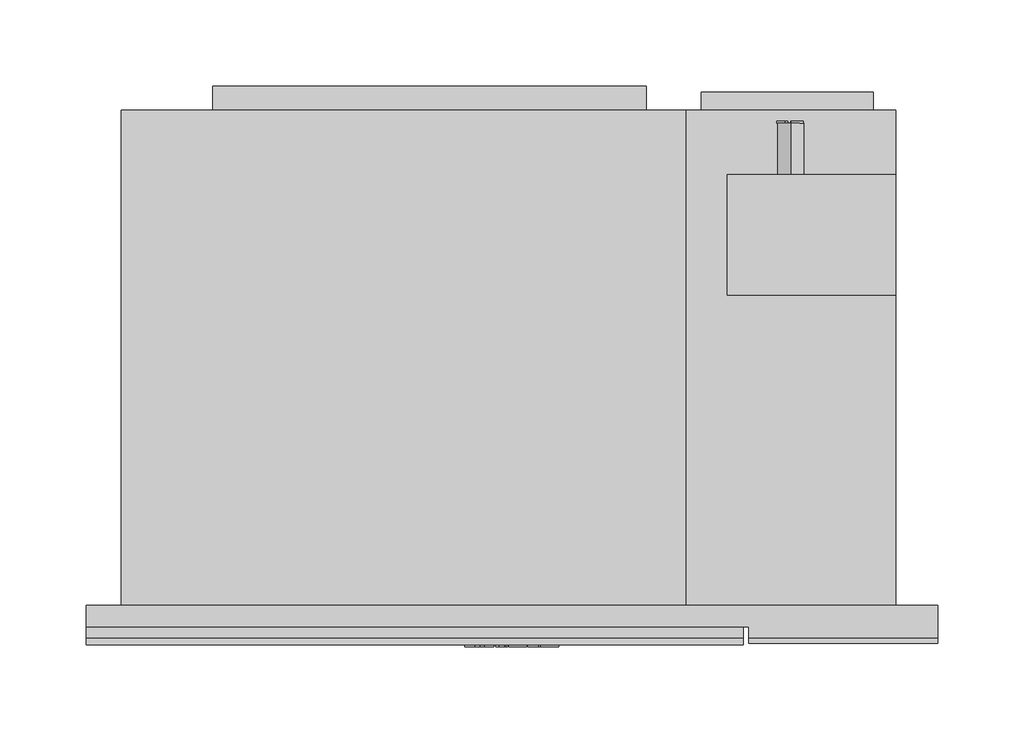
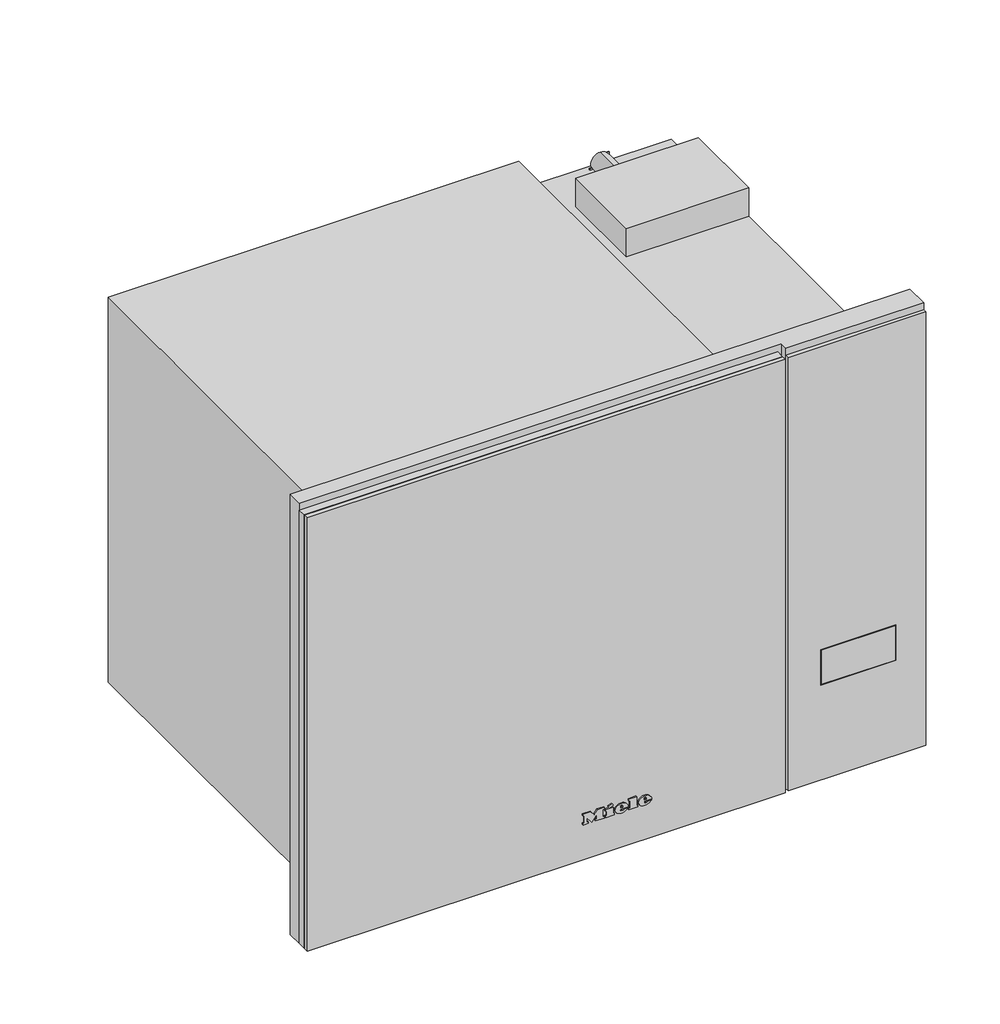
# Not in any storey: 1 proxy.
"""IFC4 building model written with IfcOpenShell, lengths in millimetres."""

import ifcopenshell
import ifcopenshell.guid

model = None  # the IFC model being written
_history = None  # IfcOwnerHistory: only IFC2X3 demands one
_inside = {}  # id of a spatial element -> (the spatial element, [elements in it])
_under = {}  # id of a project, library or spatial element -> (it, [spatial elements below it])
_declared = {}  # id of a project -> (the project, [libraries it declares])
_typed = {}  # id of a type object -> (the type object, [elements of that type])
_made_of = {}  # id of a material, layer set ... -> (it, [elements and type objects made of it])


def new_model(schema):
    """Start an empty IFC model of exactly this schema.

    Asked for "IFC4X3", IfcOpenShell would pick the latest addendum, in which some entities
    have other attributes; the version numbers below select the first issue.
    IFC2X3 requires an IfcOwnerHistory on every rooted entity: one is made here for all.
    """
    global model, _history
    if schema == "IFC4X3":
        model = ifcopenshell.file(schema_version=(4, 3, 0, 0))
    else:
        model = ifcopenshell.file(schema=schema)
    _inside.clear()
    _under.clear()
    _declared.clear()
    _typed.clear()
    _made_of.clear()
    _history = None
    if model.schema == "IFC2X3":
        org = make("IfcOrganization", Name="unknown")
        user = make(
            "IfcPersonAndOrganization",
            ThePerson=make("IfcPerson", FamilyName="unknown"),
            TheOrganization=org,
        )
        app = make(
            "IfcApplication",
            ApplicationDeveloper=org,
            Version="unknown",
            ApplicationFullName="unknown",
            ApplicationIdentifier="unknown",
        )
        _history = make(
            "IfcOwnerHistory",
            OwningUser=user,
            OwningApplication=app,
            ChangeAction="ADDED",
            CreationDate=0,
        )
    return model


def make(cls, **values):
    """One entity of the class cls with the attributes given. An attribute that is None is left unset."""
    return model.create_entity(
        cls, **{name: value for name, value in values.items() if value is not None}
    )


def rooted(cls, **values):
    """An entity with a GlobalId (a new one), such as an element, a storey or a relation."""
    return make(cls, GlobalId=ifcopenshell.guid.new(), OwnerHistory=_history, **values)


def si_unit(unit_type, name, prefix=None):
    """IfcSIUnit, for example si_unit("LENGTHUNIT", "METRE", prefix="MILLI")."""
    return make("IfcSIUnit", UnitType=unit_type, Prefix=prefix, Name=name)


def assignment(units):
    """IfcUnitAssignment: the units of a project."""
    return None if units is None else make("IfcUnitAssignment", Units=units)


def point(xyz):
    """IfcCartesianPoint."""
    return None if xyz is None else make("IfcCartesianPoint", Coordinates=xyz)


def direction(xyz):
    """IfcDirection."""
    return None if xyz is None else make("IfcDirection", DirectionRatios=xyz)


def frame(location, z_axis=None, x_axis=None):
    """IfcAxis2Placement3D, a coordinate frame: its origin and axes. An axis left out is left unset."""
    return make(
        "IfcAxis2Placement3D",
        Location=point(location),
        Axis=direction(z_axis),
        RefDirection=direction(x_axis),
    )


def frame_2d(location, x_axis=None):
    """IfcAxis2Placement2D, a coordinate frame in the plane: its origin and x axis."""
    return make(
        "IfcAxis2Placement2D", Location=point(location), RefDirection=direction(x_axis)
    )


def origin():
    """The frame at (0, 0, 0) with its axes left unset."""
    return frame((0.0, 0.0, 0.0))


def origin_with_axes():
    """The frame at (0, 0, 0) with the z axis (0, 0, 1) and the x axis (1, 0, 0) written out."""
    return frame((0.0, 0.0, 0.0), z_axis=(0.0, 0.0, 1.0), x_axis=(1.0, 0.0, 0.0))


def place(relative_to, where):
    """IfcLocalPlacement: puts the frame where relative to a parent placement (None: the world)."""
    return make(
        "IfcLocalPlacement", PlacementRelTo=relative_to, RelativePlacement=where
    )


def context(
    kind, dimensions, precision=None, world=None, true_north=None, identifier=None
):
    """IfcGeometricRepresentationContext, for example the 3D "Model" context."""
    return make(
        "IfcGeometricRepresentationContext",
        ContextIdentifier=identifier,
        ContextType=kind,
        CoordinateSpaceDimension=dimensions,
        Precision=precision,
        WorldCoordinateSystem=world,
        TrueNorth=true_north,
    )


def project(units=None, contexts=None):
    """IfcProject with its units and contexts."""
    return rooted(
        "IfcProject",
        Name="project",
        RepresentationContexts=contexts,
        UnitsInContext=assignment(units),
    )


def spatial(cls, under=None, at=None, **own):
    """A site, building, storey or space (cls), placed at a placement, below another one or the project."""
    s = rooted(cls, ObjectPlacement=at, **own)
    if under is not None:
        _under.setdefault(under.id(), (under, []))[1].append(s)
    return s


def polyline(points):
    """IfcPolyline through the points."""
    return make("IfcPolyline", Points=[point(p) for p in points])


def circle_curve(where, radius):
    """IfcCircle in the frame where."""
    return make("IfcCircle", Position=where, Radius=radius)


def ellipse_curve(where, semi_axis1, semi_axis2):
    """IfcEllipse in the frame where."""
    return make(
        "IfcEllipse", Position=where, SemiAxis1=semi_axis1, SemiAxis2=semi_axis2
    )


def trimmed(basis, trim1, trim2, sense, master):
    """IfcTrimmedCurve: the piece of a basis curve between two trims."""
    return make(
        "IfcTrimmedCurve",
        BasisCurve=basis,
        Trim1=trim1,
        Trim2=trim2,
        SenseAgreement=sense,
        MasterRepresentation=master,
    )


def segment(curve, same_sense, transition):
    """IfcCompositeCurveSegment."""
    return make(
        "IfcCompositeCurveSegment",
        Transition=transition,
        SameSense=same_sense,
        ParentCurve=curve,
    )


def composite_curve(segments, self_intersect=None):
    """IfcCompositeCurve: segments joined end to end."""
    return make("IfcCompositeCurve", Segments=segments, SelfIntersect=self_intersect)


def outline(outer, holes=None, kind="AREA"):
    """IfcArbitraryClosedProfileDef: a profile drawn as a closed curve; with holes, ...WithVoids."""
    if holes is None:
        return make("IfcArbitraryClosedProfileDef", ProfileType=kind, OuterCurve=outer)
    return make(
        "IfcArbitraryProfileDefWithVoids",
        ProfileType=kind,
        OuterCurve=outer,
        InnerCurves=holes,
    )


def extrude(swept, where, along, depth):
    """IfcExtrudedAreaSolid: the profile swept, set in the frame where, extruded along a direction by depth."""
    return make(
        "IfcExtrudedAreaSolid",
        SweptArea=swept,
        Position=where,
        ExtrudedDirection=direction(along),
        Depth=depth,
    )


def faces_of(points, faces, orient=None, outer=None):
    """IfcFace entities. A face is a list of loops; a loop is a list of indices into points, from 0.

    orient and outer hold one flag for each loop. By default every Orientation is true, the
    first loop of a face is its IfcFaceOuterBound and the others are IfcFaceBound.
    """
    made = []
    for i, loops in enumerate(faces):
        bounds = []
        for j, loop in enumerate(loops):
            is_outer = j == 0 if outer is None else outer[i][j]
            bounds.append(
                make(
                    "IfcFaceOuterBound" if is_outer else "IfcFaceBound",
                    Bound=make("IfcPolyLoop", Polygon=[points[k] for k in loop]),
                    Orientation=True if orient is None else orient[i][j],
                )
            )
        made.append(make("IfcFace", Bounds=bounds))
    return made


def faceted_brep(points, faces, orient=None, outer=None, voids=None):
    """IfcFacetedBrep: a solid bounded by flat faces; with voids (closed shells), ...WithVoids."""
    shared = [point(p) for p in points]
    hull = make("IfcClosedShell", CfsFaces=faces_of(shared, faces, orient, outer))
    if voids is None:
        return make("IfcFacetedBrep", Outer=hull)
    return make(
        "IfcFacetedBrepWithVoids",
        Outer=hull,
        Voids=[
            make(cls, CfsFaces=faces_of(shared, fs, o, b)) for cls, fs, o, b in voids
        ],
    )


def shape(context_of_items, identifier, shape_type, items):
    """IfcShapeRepresentation: the items that make up one representation, for example the "Body"."""
    return make(
        "IfcShapeRepresentation",
        ContextOfItems=context_of_items,
        RepresentationIdentifier=identifier,
        RepresentationType=shape_type,
        Items=items,
    )


def source(mapping_origin, context_of_items, identifier, shape_type, items):
    """IfcRepresentationMap: a shape defined once, which mapped items show again and again."""
    return make(
        "IfcRepresentationMap",
        MappingOrigin=mapping_origin,
        MappedRepresentation=shape(context_of_items, identifier, shape_type, items),
    )


def transform(
    local_origin,
    x_axis=None,
    y_axis=None,
    z_axis=None,
    scale=None,
    scale2=None,
    scale3=None,
    uniform=True,
):
    """IfcCartesianTransformationOperator3D, or its non-uniform kind. x_axis, y_axis, z_axis: its Axis1, 2, 3."""
    if uniform:
        return make(
            "IfcCartesianTransformationOperator3D",
            Axis1=direction(x_axis),
            Axis2=direction(y_axis),
            LocalOrigin=point(local_origin),
            Scale=scale,
            Axis3=direction(z_axis),
        )
    return make(
        "IfcCartesianTransformationOperator3DnonUniform",
        Axis1=direction(x_axis),
        Axis2=direction(y_axis),
        LocalOrigin=point(local_origin),
        Scale=scale,
        Axis3=direction(z_axis),
        Scale2=scale2,
        Scale3=scale3,
    )


def mapped(mapping_source, mapping_target):
    """IfcMappedItem: shows the shape of a source again, moved by a transform."""
    return make(
        "IfcMappedItem", MappingSource=mapping_source, MappingTarget=mapping_target
    )


def made_of(thing, what):
    """Note that an element or type object is made of a material, layer set ...; save() writes the relation."""
    if what is not None:
        _made_of.setdefault(what.id(), (what, []))[1].append(thing)
    return thing


def element(
    cls,
    number,
    at=None,
    inside=None,
    cuts=None,
    type_object=None,
    material=None,
    context=None,
    identifier="Body",
    shape_type=None,
    held_by="IfcProductDefinitionShape",
    body=None,
    shapes=None,
    **own,
):
    """One element of the class cls, such as IfcWall. Its Tag is "e" and its number.

    at: its placement. inside: the storey or other place that contains it. cuts: it is an
    opening in that element (IfcRelVoidsElement). A single representation is given by context,
    identifier, shape_type and body (its items); several are given by shapes. held_by: the class
    of the entity that holds the representations. save() writes the other relations.
    """
    e = rooted(cls, Tag="e%d" % number, ObjectPlacement=at, **own)
    if body is not None:
        shapes = [shape(context, identifier, shape_type, body)]
    if shapes is not None:
        e.Representation = make(held_by, Representations=shapes)
    if inside is not None:
        _inside.setdefault(inside.id(), (inside, []))[1].append(e)
    if cuts is not None:
        rooted(
            "IfcRelVoidsElement", RelatingBuildingElement=cuts, RelatedOpeningElement=e
        )
    if type_object is not None:
        _typed.setdefault(type_object.id(), (type_object, []))[1].append(e)
    return made_of(e, material)


def aggregate(whole, parts):
    """IfcRelAggregates: a whole, such as a stair, and the parts it consists of."""
    return rooted("IfcRelAggregates", RelatingObject=whole, RelatedObjects=parts)


def save(model, path):
    """Write the relations noted so far, then the file.

    IfcRelAggregates (storeys below a building ...), IfcRelContainedInSpatialStructure (elements
    in a storey), IfcRelDefinesByType, IfcRelAssociatesMaterial and IfcRelDeclares: one each for
    every whole, place, type object, material and project.
    """
    for whole, parts in _under.values():
        aggregate(whole, parts)
    for where, things in _inside.values():
        rooted(
            "IfcRelContainedInSpatialStructure",
            RelatedElements=things,
            RelatingStructure=where,
        )
    for kind, things in _typed.values():
        rooted("IfcRelDefinesByType", RelatedObjects=things, RelatingType=kind)
    for what, things in _made_of.values():
        rooted("IfcRelAssociatesMaterial", RelatedObjects=things, RelatingMaterial=what)
    for by, libraries in _declared.values():
        rooted("IfcRelDeclares", RelatingContext=by, RelatedDefinitions=libraries)
    model.write(path)


def plane_surface(at):
    """IfcPlane: the flat surface through the origin of the frame at, square to its z axis."""
    return make("IfcPlane", Position=at)


def cylinder_surface(at, radius):
    """IfcCylindricalSurface: all points at the distance radius from the z axis of the frame at."""
    return make("IfcCylindricalSurface", Position=at, Radius=radius)


def revolved_surface(curve, axis_point, axis_direction):
    """IfcSurfaceOfRevolution: the curve turned about the line through axis_point along axis_direction."""
    return make(
        "IfcSurfaceOfRevolution",
        SweptCurve=make("IfcArbitraryOpenProfileDef", ProfileType="CURVE", Curve=curve),
        AxisPosition=make("IfcAxis1Placement", Location=point(axis_point), Axis=direction(axis_direction)),
    )


def extruded_surface(curve, direction_of_extrusion, depth):
    """IfcSurfaceOfLinearExtrusion: the curve pushed along a direction by depth."""
    return make(
        "IfcSurfaceOfLinearExtrusion",
        SweptCurve=make("IfcArbitraryOpenProfileDef", ProfileType="CURVE", Curve=curve),
        ExtrudedDirection=direction(direction_of_extrusion),
        Depth=depth,
    )


def advanced_brep(points, edges, surfaces, faces):
    """IfcAdvancedBrep: a solid bounded by faces that lie on surfaces and meet in shared edges.

    An edge is (start, end): straight between two places in points (the first is 0);
    or (start, end, curve); or (start, end, curve, False) where it runs against its curve.
    A face is (place in surfaces, loops), or (place, loops, False) where it looks against
    its surface's normal. A loop lists edges by number (the first is 1), with a minus sign
    where the edge is run from its end to its start. The first loop is the outer one.
    """
    corners = [point(p) for p in points]
    vertices = [make("IfcVertexPoint", VertexGeometry=c) for c in corners]
    made = []
    for start, end, *more in edges:
        made.append(
            make(
                "IfcEdgeCurve",
                EdgeStart=vertices[start],
                EdgeEnd=vertices[end],
                EdgeGeometry=more[0] if more else make("IfcPolyline", Points=[corners[start], corners[end]]),
                SameSense=more[1] if len(more) > 1 else True,
            )
        )
    hull = []
    for where, loops, *sense in faces:
        bounds = []
        for j, loop in enumerate(loops):
            ring = [make("IfcOrientedEdge", EdgeElement=made[abs(k) - 1], Orientation=k > 0) for k in loop]
            bounds.append(
                make(
                    "IfcFaceOuterBound" if j == 0 else "IfcFaceBound",
                    Bound=make("IfcEdgeLoop", EdgeList=ring),
                    Orientation=True,
                )
            )
        hull.append(make("IfcAdvancedFace", Bounds=bounds, FaceSurface=surfaces[where], SameSense=sense[0] if sense else True))
    return make("IfcAdvancedBrep", Outer=make("IfcClosedShell", CfsFaces=hull))


def specialty_equipment_d0073193(model_context):
    return source(origin(), model_context, "Body", "SolidModel", [
        advanced_brep(
        [(21.28, -24.0, 16.633), (21.28, -24.0, 17.542), (27.301, -24.0, 17.542), (16.825, -24.0, 17.542), (19.3, -24.0, 14.5), (27.148, -24.0, 16.633), (24.43, -24.0, 16.633), (22.288, -24.0, 15.625), (21.28, -24.0, 18.694), (21.28, -24.0, 19.675), (22.819, -24.0, 19.675), (22.819, -24.0, 18.694), (21.28, -23.0, 16.633), (22.288, -23.0, 15.625), (24.43, -23.0, 16.633), (27.148, -23.0, 16.633), (19.3, -23.0, 14.5), (16.825, -23.0, 17.542), (27.301, -23.0, 17.542), (21.28, -23.0, 17.542), (21.28, -23.0, 18.694), (22.819, -23.0, 18.694), (22.819, -23.0, 19.675), (21.28, -23.0, 19.675)],
        [
            (0, 1),
            (1, 2),
            (2, 3, ellipse_curve(frame((22.063, -24.0, 17.542), z_axis=(0.0, -1.0, 0.0), x_axis=(-1.0, 0.0, 0.0)), 5.238, 4.329)),
            (3, 4, circle_curve(frame((20.3080491, -24.0, 17.848), z_axis=(0.0, -1.0, 0.0), x_axis=(0.0, 0.0, -1.0)), 3.4964649)),
            (4, 5, circle_curve(frame((21.9581428, -24.0, 20.224), z_axis=(0.0, -1.0, 0.0), x_axis=(0.0, 0.0, -1.0)), 6.3110933)),
            (5, 6),
            (6, 7, circle_curve(frame((22.7279412, -24.0, 17.47), z_axis=(0.0, 1.0, 0.0), x_axis=(0.0, 0.0, -1.0)), 1.896727)),
            (7, 0, circle_curve(frame((22.288, -24.0, 16.633), z_axis=(0.0, 1.0, 0.0), x_axis=(0.0, 0.0, -1.0)), 1.008)),
            (8, 9),
            (9, 10, circle_curve(frame((22.0495, -24.0, 19.675), z_axis=(0.0, 1.0, 0.0), x_axis=(0.0, 0.0, -1.0)), 0.7695)),
            (10, 11),
            (11, 8),
            (12, 13, circle_curve(frame((22.288, -23.0, 16.633), z_axis=(0.0, -1.0, 0.0), x_axis=(0.0, 0.0, -1.0)), 1.008)),
            (13, 14, circle_curve(frame((22.7279412, -23.0, 17.47), z_axis=(0.0, -1.0, 0.0), x_axis=(0.0, 0.0, -1.0)), 1.896727)),
            (14, 15),
            (15, 16, circle_curve(frame((21.9581428, -23.0, 20.224), z_axis=(0.0, 1.0, 0.0), x_axis=(0.0, 0.0, -1.0)), 6.3110933)),
            (16, 17, circle_curve(frame((20.3080491, -23.0, 17.848), z_axis=(0.0, 1.0, 0.0), x_axis=(0.0, 0.0, -1.0)), 3.4964649)),
            (17, 18, ellipse_curve(frame((22.063, -23.0, 17.542), z_axis=(0.0, 1.0, 0.0), x_axis=(-1.0, 0.0, 0.0)), 5.238, 4.329)),
            (18, 19),
            (19, 12),
            (20, 21),
            (21, 22),
            (22, 23, circle_curve(frame((22.0495, -23.0, 19.675), z_axis=(0.0, -1.0, 0.0), x_axis=(0.0, 0.0, -1.0)), 0.7695)),
            (23, 20),
            (0, 12),
            (19, 1),
            (18, 2),
            (5, 15),
            (14, 6),
            (17, 3),
            (13, 7),
            (16, 4),
            (8, 20),
            (23, 9),
            (22, 10),
            (21, 11),
        ],
        [
            plane_surface(frame((21.28, -24.0, 17.542), z_axis=(0.0, -1.0, 0.0), x_axis=(0.0, 0.0, 1.0))),
            plane_surface(frame((21.28, -23.0, 17.542), z_axis=(0.0, 1.0, 0.0), x_axis=(0.0, 0.0, -1.0))),
            plane_surface(frame((21.28, -24.0, 16.633), z_axis=(1.0, 0.0, 0.0), x_axis=(0.0, 1.0, 0.0))),
            plane_surface(frame((21.28, -24.0, 17.542), z_axis=(0.0, 0.0, -1.0), x_axis=(0.0, 1.0, 0.0))),
            plane_surface(frame((27.148, -24.0, 16.633), z_axis=(0.0, 0.0, 1.0), x_axis=(0.0, 1.0, 0.0))),
            extruded_surface(trimmed(ellipse_curve(frame((22.063, -22.0, 17.542), z_axis=(0.0, -1.0, 0.0), x_axis=(-1.0, 0.0, 0.0)), 5.238, 4.329), [point((27.301, -22.0, 17.542))], [point((16.825, -22.0, 17.542))], True, "CARTESIAN"), (0.0, -1.0, 0.0), 1.0),
            revolved_surface(polyline([(22.7279412, -23.0, 15.573272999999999), (22.7279412, -24.0, 15.573272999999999)]), (22.7279412, -23.0, 17.47), (0.0, 1.0, 0.0)),
            revolved_surface(polyline([(22.288, -23.0, 15.625), (22.288, -24.0, 15.625)]), (22.288, -23.0, 16.633), (0.0, 1.0, 0.0)),
            cylinder_surface(frame((20.3080491, -23.0, 17.848), z_axis=(0.0, -1.0, 0.0), x_axis=(0.0, 0.0, -1.0)), 3.4964649),
            cylinder_surface(frame((21.9581428, -23.0, 20.224), z_axis=(0.0, -1.0, 0.0), x_axis=(0.0, 0.0, -1.0)), 6.3110933),
            plane_surface(frame((21.28, -24.0, 18.694), z_axis=(1.0, 0.0, 0.0), x_axis=(0.0, 1.0, 0.0))),
            revolved_surface(polyline([(22.0495, -23.0, 18.9055), (22.0495, -24.0, 18.9055)]), (22.0495, -23.0, 19.675), (0.0, 1.0, 0.0)),
            plane_surface(frame((22.819, -24.0, 19.675), z_axis=(-1.0, 0.0, 0.0), x_axis=(0.0, 1.0, 0.0))),
            plane_surface(frame((22.819, -24.0, 18.694), z_axis=(0.0, 0.0, 1.0), x_axis=(0.0, 1.0, 0.0))),
        ],
        [
            (0, [[1, 2, 3, 4, 5, 6, 7, 8], [9, 10, 11, 12]]),
            (1, [[13, 14, 15, 16, 17, 18, 19, 20], [21, 22, 23, 24]]),
            (2, [[-1, 25, -20, 26]]),
            (3, [[-2, -26, -19, 27]]),
            (4, [[-6, 28, -15, 29]]),
            (5, [[-3, -27, -18, 30]]),
            (6, [[-7, -29, -14, 31]]),
            (7, [[-8, -31, -13, -25]]),
            (8, [[-4, -30, -17, 32]]),
            (9, [[-5, -32, -16, -28]]),
            (10, [[-9, 33, -24, 34]]),
            (11, [[-10, -34, -23, 35]]),
            (12, [[-11, -35, -22, 36]]),
            (13, [[-12, -36, -21, -33]]),
        ],
    ),
        advanced_brep(
        [(2.497, -24.0, 16.633), (2.497, -24.0, 17.542), (8.518, -24.0, 17.542), (-1.958, -24.0, 17.542), (0.517, -24.0, 14.5), (8.365, -24.0, 16.633), (5.647, -24.0, 16.633), (3.505, -24.0, 15.625), (2.497, -24.0, 18.694), (2.497, -24.0, 19.675), (4.036, -24.0, 19.675), (4.036, -24.0, 18.694), (2.497, -23.0, 16.633), (3.505, -23.0, 15.625), (5.647, -23.0, 16.633), (8.365, -23.0, 16.633), (0.517, -23.0, 14.5), (-1.958, -23.0, 17.542), (8.518, -23.0, 17.542), (2.497, -23.0, 17.542), (2.497, -23.0, 18.694), (4.036, -23.0, 18.694), (4.036, -23.0, 19.675), (2.497, -23.0, 19.675)],
        [
            (0, 1),
            (1, 2),
            (2, 3, ellipse_curve(frame((3.28, -24.0, 17.542), z_axis=(0.0, -1.0, 0.0), x_axis=(-1.0, 0.0, 0.0)), 5.238, 4.329)),
            (3, 4, circle_curve(frame((1.5250491, -24.0, 17.848), z_axis=(0.0, -1.0, 0.0), x_axis=(0.0, 0.0, -1.0)), 3.4964649)),
            (4, 5, circle_curve(frame((3.1751428, -24.0, 20.224), z_axis=(0.0, -1.0, 0.0), x_axis=(0.0, 0.0, -1.0)), 6.3110933)),
            (5, 6),
            (6, 7, circle_curve(frame((3.9449412, -24.0, 17.47), z_axis=(0.0, 1.0, 0.0), x_axis=(0.0, 0.0, -1.0)), 1.896727)),
            (7, 0, circle_curve(frame((3.505, -24.0, 16.633), z_axis=(0.0, 1.0, 0.0), x_axis=(0.0, 0.0, -1.0)), 1.008)),
            (8, 9),
            (9, 10, circle_curve(frame((3.2665, -24.0, 19.675), z_axis=(0.0, 1.0, 0.0), x_axis=(0.0, 0.0, -1.0)), 0.7695)),
            (10, 11),
            (11, 8),
            (12, 13, circle_curve(frame((3.505, -23.0, 16.633), z_axis=(0.0, -1.0, 0.0), x_axis=(0.0, 0.0, -1.0)), 1.008)),
            (13, 14, circle_curve(frame((3.9449412, -23.0, 17.47), z_axis=(0.0, -1.0, 0.0), x_axis=(0.0, 0.0, -1.0)), 1.896727)),
            (14, 15),
            (15, 16, circle_curve(frame((3.1751428, -23.0, 20.224), z_axis=(0.0, 1.0, 0.0), x_axis=(0.0, 0.0, -1.0)), 6.3110933)),
            (16, 17, circle_curve(frame((1.5250491, -23.0, 17.848), z_axis=(0.0, 1.0, 0.0), x_axis=(0.0, 0.0, -1.0)), 3.4964649)),
            (17, 18, ellipse_curve(frame((3.28, -23.0, 17.542), z_axis=(0.0, 1.0, 0.0), x_axis=(-1.0, 0.0, 0.0)), 5.238, 4.329)),
            (18, 19),
            (19, 12),
            (20, 21),
            (21, 22),
            (22, 23, circle_curve(frame((3.2665, -23.0, 19.675), z_axis=(0.0, -1.0, 0.0), x_axis=(0.0, 0.0, -1.0)), 0.7695)),
            (23, 20),
            (0, 12),
            (19, 1),
            (18, 2),
            (5, 15),
            (14, 6),
            (17, 3),
            (13, 7),
            (16, 4),
            (8, 20),
            (23, 9),
            (22, 10),
            (21, 11),
        ],
        [
            plane_surface(frame((2.497, -24.0, 17.542), z_axis=(0.0, -1.0, 0.0), x_axis=(0.0, 0.0, 1.0))),
            plane_surface(frame((2.497, -23.0, 17.542), z_axis=(0.0, 1.0, 0.0), x_axis=(0.0, 0.0, -1.0))),
            plane_surface(frame((2.497, -24.0, 16.633), z_axis=(1.0, 0.0, 0.0), x_axis=(0.0, 1.0, 0.0))),
            plane_surface(frame((2.497, -24.0, 17.542), z_axis=(0.0, 0.0, -1.0), x_axis=(0.0, 1.0, 0.0))),
            plane_surface(frame((8.365, -24.0, 16.633), z_axis=(0.0, 0.0, 1.0), x_axis=(0.0, 1.0, 0.0))),
            extruded_surface(trimmed(ellipse_curve(frame((3.28, -22.0, 17.542), z_axis=(0.0, -1.0, 0.0), x_axis=(-1.0, 0.0, 0.0)), 5.238, 4.329), [point((8.518, -22.0, 17.542))], [point((-1.958, -22.0, 17.542))], True, "CARTESIAN"), (0.0, -1.0, 0.0), 1.0),
            revolved_surface(polyline([(3.9449412, -23.0, 15.573272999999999), (3.9449412, -24.0, 15.573272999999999)]), (3.9449412, -23.0, 17.47), (0.0, 1.0, 0.0)),
            revolved_surface(polyline([(3.505, -23.0, 15.625), (3.505, -24.0, 15.625)]), (3.505, -23.0, 16.633), (0.0, 1.0, 0.0)),
            cylinder_surface(frame((1.5250491, -23.0, 17.848), z_axis=(0.0, -1.0, 0.0), x_axis=(0.0, 0.0, -1.0)), 3.4964649),
            cylinder_surface(frame((3.1751428, -23.0, 20.224), z_axis=(0.0, -1.0, 0.0), x_axis=(0.0, 0.0, -1.0)), 6.3110933),
            plane_surface(frame((2.497, -24.0, 18.694), z_axis=(1.0, 0.0, 0.0), x_axis=(0.0, 1.0, 0.0))),
            revolved_surface(polyline([(3.2665, -23.0, 18.9055), (3.2665, -24.0, 18.9055)]), (3.2665, -23.0, 19.675), (0.0, 1.0, 0.0)),
            plane_surface(frame((4.036, -24.0, 19.675), z_axis=(-1.0, 0.0, 0.0), x_axis=(0.0, 1.0, 0.0))),
            plane_surface(frame((4.036, -24.0, 18.694), z_axis=(0.0, 0.0, 1.0), x_axis=(0.0, 1.0, 0.0))),
        ],
        [
            (0, [[1, 2, 3, 4, 5, 6, 7, 8], [9, 10, 11, 12]]),
            (1, [[13, 14, 15, 16, 17, 18, 19, 20], [21, 22, 23, 24]]),
            (2, [[-1, 25, -20, 26]]),
            (3, [[-2, -26, -19, 27]]),
            (4, [[-6, 28, -15, 29]]),
            (5, [[-3, -27, -18, 30]]),
            (6, [[-7, -29, -14, 31]]),
            (7, [[-8, -31, -13, -25]]),
            (8, [[-4, -30, -17, 32]]),
            (9, [[-5, -32, -16, -28]]),
            (10, [[-9, 33, -24, 34]]),
            (11, [[-10, -34, -23, 35]]),
            (12, [[-11, -35, -22, 36]]),
            (13, [[-12, -36, -21, -33]]),
        ],
    ),
        extrude(outline(polyline([(22.969, -7.34), (21.511, -6.656), (22.933, -3.605), (24.391, -4.28), (22.969, -7.34)])), frame((0.0, -24.0, 0.0), z_axis=(0.0, 1.0, 0.0), x_axis=(0.0, 0.0, 1.0)), (0.0, 0.0, 1.0), 1.0),
        extrude(outline(polyline([(21.313, -9.563), (19.702, -9.563), (19.702, -8.492), (16.012, -8.492), (16.012, -9.563), (14.5, -9.563), (14.5, -2.462), (16.012, -2.462), (16.012, -3.506), (21.313, -3.506), (21.313, -9.563)])), frame((0.0, -24.0, 0.0), z_axis=(0.0, 1.0, 0.0), x_axis=(0.0, 0.0, 1.0)), (0.0, 0.0, 1.0), 1.0),
        extrude(outline(polyline([(22.033, 9.022), (22.033, 10.102), (16.012, 10.102), (16.012, 9.022), (14.5, 9.022), (14.5, 16.321), (16.012, 16.321), (16.012, 15.214), (23.5, 15.214), (23.5, 9.022), (22.033, 9.022)])), frame((0.0, -24.0, 0.0), z_axis=(0.0, 1.0, 0.0), x_axis=(0.0, 0.0, 1.0)), (0.0, 0.0, 1.0), 1.0),
        extrude(outline(polyline([(22.033, -27.5), (22.033, -26.411), (16.012, -26.411), (16.012, -27.5), (14.5, -27.5), (14.5, -23.54), (16.012, -23.54), (16.012, -24.62), (19.8341247, -24.62), (14.5, -20.597), (19.9402223, -16.556), (16.012, -16.556), (16.012, -17.663), (14.5, -17.663), (14.5, -10.481), (16.012, -10.481), (16.012, -11.624), (22.033, -11.624), (22.033, -10.481), (23.5, -10.481), (23.5, -15.962), (20.125, -18.59), (23.5, -21.227), (23.5, -27.5), (22.033, -27.5)])), frame((0.0, -24.0, 0.0), z_axis=(0.0, 1.0, 0.0), x_axis=(0.0, 0.0, 1.0)), (0.0, 0.0, 1.0), 1.0),
        extrude(outline(polyline([(164.0, -19.0), (223.0, -19.0), (223.0, -22.0), (164.0, -22.0), (164.0, -19.0)])), frame((0.0, 0.0, 65.0), z_axis=(0.0, 0.0, 1.0), x_axis=(1.0, 0.0, 0.0)), (0.0, 0.0, 1.0), 29.0),
        extrude(outline(polyline([(350.5, 247.5), (350.5, 137.5), (-15.5, 137.5), (-15.5, 247.5), (350.5, 247.5)]), holes=[polyline([(94.5, 223.5), (64.5, 223.5), (64.5, 163.5), (94.5, 163.5), (94.5, 223.5)])]), frame((0.0, -22.0, 0.0), z_axis=(0.0, 1.0, 0.0), x_axis=(0.0, 0.0, 1.0)), (0.0, 0.0, 1.0), 3.0),
        extrude(outline(polyline([(163.5, -21.8), (221.5, -21.8), (221.5, -22.1), (163.5, -22.1), (163.5, -21.8)])), frame((0.0, 0.0, 260.0), z_axis=(0.0, 0.0, 1.0), x_axis=(1.0, 0.0, 0.0)), (0.0, 0.0, 1.0), 25.0),
        extrude(outline(polyline([(350.5, -247.5), (-15.5, -247.5), (-15.5, 134.5), (350.5, 134.5), (350.5, -247.5)]), holes=[polyline([(293.5, -215.0), (293.5, 130.0), (41.5, 130.0), (41.5, -215.0), (293.5, -215.0)])]), frame((0.0, -19.0, 0.0), z_axis=(0.0, 1.0, 0.0), x_axis=(0.0, 0.0, 1.0)), (0.0, 0.0, 1.0), 6.5),
        extrude(outline(polyline([(-215.0, 7.0), (130.0, 7.0), (130.0, -19.0), (-215.0, -19.0), (-215.0, 7.0)])), frame((0.0, 0.0, 41.5), z_axis=(0.0, 0.0, 1.0), x_axis=(1.0, 0.0, 0.0)), (0.0, 0.0, 1.0), 252.0),
        extrude(outline(polyline([(-247.5, -19.0), (134.5, -19.0), (134.5, -23.0), (-247.5, -23.0), (-247.5, -19.0)])), frame((0.0, 0.0, -15.5), z_axis=(0.0, 0.0, 1.0), x_axis=(1.0, 0.0, 0.0)), (0.0, 0.0, 1.0), 366.0),
        extrude(outline(polyline([(329.5536781, 162.1660444), (328.2952065, 162.1660444), (328.2952065, 168.1269959), (325.3028248, 168.1269959), (325.3028248, 162.4835385), (324.0487231, 162.4835385), (324.0487231, 168.1269959), (320.7630117, 168.1269959), (320.7630117, 162.0), (319.5, 162.0), (319.5, 169.3757838), (329.5536781, 169.3757838), (329.5536781, 162.1660444)])), frame((0.0, 280.5, 0.0), z_axis=(0.0, 1.0, 0.0), x_axis=(0.0, 0.0, 1.0)), (0.0, 0.0, 1.0), 1.0),
        extrude(outline(polyline([(329.5536781, 158.8530432), (320.7543004, 158.8530432), (320.7543004, 153.8378502), (319.5, 153.8378502), (319.5, 160.1246692), (329.5536781, 160.1246692), (329.5536781, 158.8530432)])), frame((0.0, 280.5, 0.0), z_axis=(0.0, 1.0, 0.0), x_axis=(0.0, 0.0, 1.0)), (0.0, 0.0, 1.0), 1.0),
        extrude(outline(composite_curve([segment(trimmed(circle_curve(frame_2d((324.5, 162.0)), 7.5), [point((317.0, 162.0))], [point((332.0, 162.0))], False, "CARTESIAN"), True, "CONTINUOUS"), segment(trimmed(circle_curve(frame_2d((324.5, 162.0)), 7.5), [point((332.0, 162.0))], [point((317.0, 162.0))], False, "CARTESIAN"), True, "CONTINUOUS")], self_intersect=False)), frame((0.0, 250.5, 0.0), z_axis=(0.0, 1.0, 0.0), x_axis=(0.0, 0.0, 1.0)), (0.0, 0.0, 1.0), 30.0),
        extrude(outline(polyline([(60.0, 176.0), (60.0, 96.0), (-20.0, 96.0), (-20.0, 176.0), (60.0, 176.0)])), frame((0.0, 0.0, 7.0), z_axis=(0.0, 0.0, 1.0), x_axis=(1.0, 0.0, 0.0)), (0.0, 0.0, 1.0), 9.0),
        extrude(outline(polyline([(-164.0, 235.25), (-164.0, 222.75), (-192.0, 222.75), (-192.0, 235.25), (-164.0, 235.25)])), origin_with_axes(), (0.0, 0.0, 1.0), 12.0),
        extrude(outline(polyline([(185.0, 235.25), (185.0, 222.75), (157.0, 222.75), (157.0, 235.25), (185.0, 235.25)])), origin_with_axes(), (0.0, 0.0, 1.0), 12.0),
        extrude(outline(polyline([(185.0, 55.25), (185.0, 42.75), (157.0, 42.75), (157.0, 55.25), (185.0, 55.25)])), origin_with_axes(), (0.0, 0.0, 1.0), 12.0),
        extrude(outline(polyline([(-164.0, 55.25), (-164.0, 42.75), (-192.0, 42.75), (-192.0, 55.25), (-164.0, 55.25)])), origin_with_axes(), (0.0, 0.0, 1.0), 12.0),
        extrude(outline(composite_curve([segment(trimmed(circle_curve(frame_2d((-178.0, 229.0)), 18.5), [point((-159.5, 229.0))], [point((-196.5, 229.0))], False, "CARTESIAN"), True, "CONTINUOUS"), segment(trimmed(circle_curve(frame_2d((-178.0, 229.0)), 18.5), [point((-196.5, 229.0))], [point((-159.5, 229.0))], False, "CARTESIAN"), True, "CONTINUOUS")], self_intersect=False)), frame((0.0, 0.0, 12.0), z_axis=(0.0, 0.0, 1.0), x_axis=(1.0, 0.0, 0.0)), (0.0, 0.0, 1.0), 4.0),
        extrude(outline(composite_curve([segment(trimmed(circle_curve(frame_2d((171.0, 229.0)), 18.5), [point((189.5, 229.0))], [point((152.5, 229.0))], False, "CARTESIAN"), True, "CONTINUOUS"), segment(trimmed(circle_curve(frame_2d((171.0, 229.0)), 18.5), [point((152.5, 229.0))], [point((189.5, 229.0))], False, "CARTESIAN"), True, "CONTINUOUS")], self_intersect=False)), frame((0.0, 0.0, 12.0), z_axis=(0.0, 0.0, 1.0), x_axis=(1.0, 0.0, 0.0)), (0.0, 0.0, 1.0), 4.0),
        extrude(outline(composite_curve([segment(trimmed(circle_curve(frame_2d((-178.0, 49.0)), 18.5), [point((-159.5, 49.0))], [point((-196.5, 49.0))], False, "CARTESIAN"), True, "CONTINUOUS"), segment(trimmed(circle_curve(frame_2d((-178.0, 49.0)), 18.5), [point((-196.5, 49.0))], [point((-159.5, 49.0))], False, "CARTESIAN"), True, "CONTINUOUS")], self_intersect=False)), frame((0.0, 0.0, 12.0), z_axis=(0.0, 0.0, 1.0), x_axis=(1.0, 0.0, 0.0)), (0.0, 0.0, 1.0), 4.0),
        extrude(outline(composite_curve([segment(trimmed(circle_curve(frame_2d((171.0, 49.0)), 18.5), [point((189.5, 49.0))], [point((152.5, 49.0))], False, "CARTESIAN"), True, "CONTINUOUS"), segment(trimmed(circle_curve(frame_2d((171.0, 49.0)), 18.5), [point((152.5, 49.0))], [point((189.5, 49.0))], False, "CARTESIAN"), True, "CONTINUOUS")], self_intersect=False)), frame((0.0, 0.0, 12.0), z_axis=(0.0, 0.0, 1.0), x_axis=(1.0, 0.0, 0.0)), (0.0, 0.0, 1.0), 4.0),
        extrude(outline(polyline([(110.0, 298.5), (210.0, 298.5), (210.0, 288.0), (110.0, 288.0), (110.0, 298.5)])), frame((0.0, 0.0, 52.0), z_axis=(0.0, 0.0, 1.0), x_axis=(1.0, 0.0, 0.0)), (0.0, 0.0, 1.0), 245.0),
        extrude(outline(polyline([(-174.0, 302.0), (78.0, 302.0), (78.0, 288.0), (-174.0, 288.0), (-174.0, 302.0)])), frame((0.0, 0.0, 71.0), z_axis=(0.0, 0.0, 1.0), x_axis=(1.0, 0.0, 0.0)), (0.0, 0.0, 1.0), 183.0),
        extrude(outline(polyline([(125.0, 250.5), (223.0, 250.5), (223.0, 180.5), (125.0, 180.5), (125.0, 250.5)])), frame((0.0, 0.0, 317.0), z_axis=(0.0, 0.0, 1.0), x_axis=(1.0, 0.0, 0.0)), (0.0, 0.0, 1.0), 24.0),
        faceted_brep([(223.0, 288.0, 16.0), (-227.0, 288.0, 16.0), (-227.0, 288.0, 341.0), (101.0, 288.0, 341.0), (101.0, 288.0, 317.0), (223.0, 288.0, 317.0), (-227.0, 0.0, 341.0), (-227.0, 0.0, 16.0), (223.0, 0.0, 16.0), (223.0, 0.0, 317.0), (101.0, 0.0, 317.0), (101.0, 0.0, 341.0), (132.0, 0.0, 307.5), (132.0, 0.0, 31.5), (-221.0, 0.0, 31.5), (-221.0, 0.0, 307.5), (132.0, 2.0, 307.5), (-221.0, 2.0, 307.5), (-221.0, 2.0, 31.5), (132.0, 2.0, 31.5), (94.0, 2.0, 268.5), (94.0, 2.0, 65.5), (-191.0, 2.0, 65.5), (-191.0, 2.0, 268.5), (94.0, 266.0, 268.5), (-191.0, 266.0, 268.5), (-191.0, 266.0, 65.5), (94.0, 266.0, 65.5)], [[[0, 1, 2, 3, 4, 5]], [[6, 7, 8, 9, 10, 11], [12, 13, 14, 15]], [[2, 6, 11, 3]], [[2, 1, 7, 6]], [[1, 0, 8, 7]], [[8, 0, 5, 9]], [[4, 10, 9, 5]], [[10, 4, 3, 11]], [[16, 17, 18, 19], [20, 21, 22, 23]], [[16, 19, 13, 12]], [[19, 18, 14, 13]], [[17, 16, 12, 15]], [[24, 25, 26, 27]], [[24, 27, 21, 20]], [[27, 26, 22, 21]], [[26, 25, 23, 22]], [[25, 24, 20, 23]], [[18, 17, 15, 14]]]),
        faceted_brep([(132.0, 0.0, 307.5), (132.0, 0.0, 31.5), (132.0, -12.5, 31.5), (132.0, -12.5, 307.5), (-221.0, 0.0, 31.5), (-221.0, -12.5, 31.5), (-221.0, 0.0, 307.5), (-221.0, -12.5, 307.5), (247.5, -19.0, -15.5), (247.5, -19.0, 356.5), (137.5, -19.0, 356.5), (137.5, -19.0, -15.5), (247.5, 0.0, 356.5), (247.5, 0.0, -15.5), (-247.5, 0.0, -15.5), (-247.5, 0.0, 356.5), (-247.5, -12.5, 356.5), (137.5, -12.5, 356.5), (-247.5, -12.5, -15.5), (137.5, -12.5, -15.5)], [[[0, 1, 2, 3]], [[1, 4, 5, 2]], [[4, 6, 7, 5]], [[6, 0, 3, 7]], [[8, 9, 10, 11]], [[12, 13, 14, 15], [1, 0, 6, 4]], [[12, 15, 16, 17, 10, 9]], [[15, 14, 18, 16]], [[14, 13, 8, 11, 19, 18]], [[9, 8, 13, 12]], [[19, 17, 16, 18], [3, 2, 5, 7]], [[17, 19, 11, 10]]]),
    ])


model = new_model("IFC4")

# Units and contexts
model_context = context("Model", 3, world=origin())
ifc_project = project(units=[si_unit("LENGTHUNIT", "METRE", prefix="MILLI")], contexts=[model_context])

# Site, building
site = spatial("IfcSite", under=ifc_project)
building = spatial("IfcBuilding", under=site)

# Proxy
placement = place(None, origin())
specialty_equipment_shape = specialty_equipment_d0073193(model_context)
element("IfcBuildingElementProxy", 1, Name="11103400_D_M2224SC_OBSW : 24222420_D_11103400_M2224SC_OBSW", ObjectType="11103400_D_M2224SC_OBSW : 24222420_D_11103400_M2224SC_OBSW", at=placement, inside=building, context=model_context, shape_type="MappedRepresentation", body=[
    mapped(specialty_equipment_shape, transform((0.0, 0.0, 0.0), x_axis=(1.0, 0.0, 0.0), y_axis=(0.0, 1.0, 0.0), z_axis=(0.0, 0.0, 1.0))),
])

save(model, "model.ifc")
